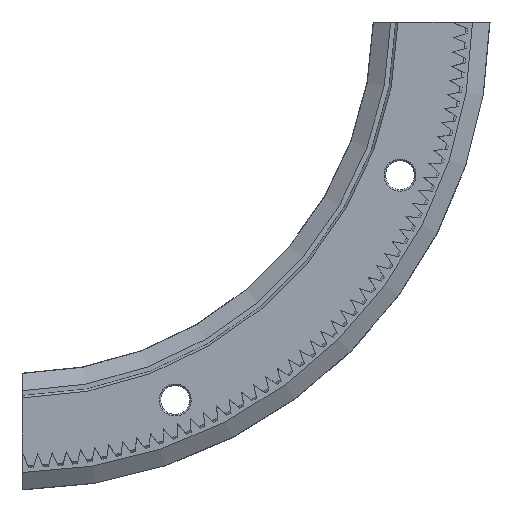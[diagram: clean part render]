
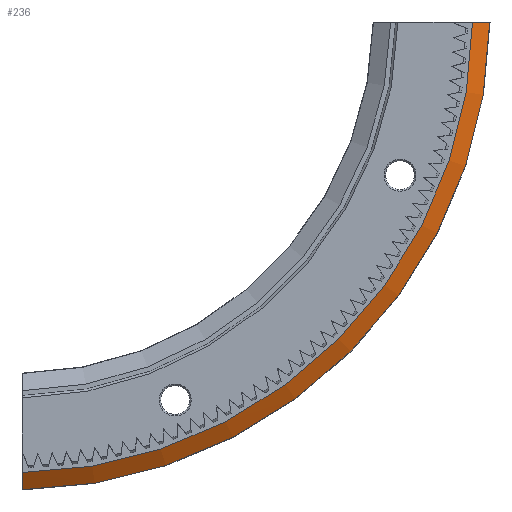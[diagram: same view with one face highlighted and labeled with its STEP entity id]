
A CAD part, front view. The second image highlights one B-rep face of the part: STEP entity #236.
In plain terms, the highlighted conical face has half-angle 55 degrees and reference radius 78.543 mm.
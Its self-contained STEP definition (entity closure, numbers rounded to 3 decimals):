
#236 = ADVANCED_FACE( '', ( #712 ), #713, .T. );
#712 = FACE_OUTER_BOUND( '', #1348, .T. );
#713 = CONICAL_SURFACE( '', #1349, 78.543, 0.96 );
#1348 = EDGE_LOOP( '', ( #3086, #3087, #3088, #3089 ) );
#1349 = AXIS2_PLACEMENT_3D( '', #3090, #3091, #3092 );
#3086 = ORIENTED_EDGE( '', *, *, #4900, .T. );
#3087 = ORIENTED_EDGE( '', *, *, #4901, .T. );
#3088 = ORIENTED_EDGE( '', *, *, #4902, .F. );
#3089 = ORIENTED_EDGE( '', *, *, #4259, .T. );
#3090 = CARTESIAN_POINT( '', ( 0., 5.8, 0. ) );
#3091 = DIRECTION( '', ( 0., 1., 0. ) );
#3092 = DIRECTION( '', ( 0., 0., 1. ) );
#4259 = EDGE_CURVE( '', #5102, #5100, #5103, .T. );
#4900 = EDGE_CURVE( '', #5100, #6224, #6225, .T. );
#4901 = EDGE_CURVE( '', #6224, #6226, #6227, .T. );
#4902 = EDGE_CURVE( '', #5102, #6226, #6228, .T. );
#5100 = VERTEX_POINT( '', #6474 );
#5102 = VERTEX_POINT( '', #6481 );
#5103 = B_SPLINE_CURVE_WITH_KNOTS( '', 3, ( #6482, #6483, #6484, #6485 ), .UNSPECIFIED., .F., .F., ( 4, 4 ), ( 0.042, 0.046 ), .UNSPECIFIED. );
#6224 = VERTEX_POINT( '', #8329 );
#6225 = CIRCLE( '', #8330, 81.474 );
#6226 = VERTEX_POINT( '', #8331 );
#6227 = B_SPLINE_CURVE_WITH_KNOTS( '', 3, ( #8332, #8333, #8334, #8335 ), .UNSPECIFIED., .F., .F., ( 4, 4 ), ( 0.073, 0.076 ), .UNSPECIFIED. );
#6228 = CIRCLE( '', #8336, 78.543 );
#6474 = CARTESIAN_POINT( '', ( 1., 7.853, -81.468 ) );
#6481 = CARTESIAN_POINT( '', ( 1., 5.8, -78.537 ) );
#6482 = CARTESIAN_POINT( '', ( 1., 5.8, -78.537 ) );
#6483 = CARTESIAN_POINT( '', ( 1., 6.484, -79.514 ) );
#6484 = CARTESIAN_POINT( '', ( 1., 7.168, -80.491 ) );
#6485 = CARTESIAN_POINT( '', ( 1., 7.853, -81.468 ) );
#8329 = CARTESIAN_POINT( '', ( 81.468, 7.853, -1. ) );
#8330 = AXIS2_PLACEMENT_3D( '', #9299, #9300, #9301 );
#8331 = CARTESIAN_POINT( '', ( 78.537, 5.8, -1. ) );
#8332 = CARTESIAN_POINT( '', ( 81.468, 7.853, -1. ) );
#8333 = CARTESIAN_POINT( '', ( 80.491, 7.168, -1. ) );
#8334 = CARTESIAN_POINT( '', ( 79.514, 6.484, -1. ) );
#8335 = CARTESIAN_POINT( '', ( 78.537, 5.8, -1. ) );
#8336 = AXIS2_PLACEMENT_3D( '', #9302, #9303, #9304 );
#9299 = CARTESIAN_POINT( '', ( 0., 7.853, 0. ) );
#9300 = DIRECTION( '', ( 0., -1., 0. ) );
#9301 = DIRECTION( '', ( 0., 0., -1. ) );
#9302 = CARTESIAN_POINT( '', ( 0., 5.8, 0. ) );
#9303 = DIRECTION( '', ( 0., -1., 0. ) );
#9304 = DIRECTION( '', ( 0., 0., -1. ) );
